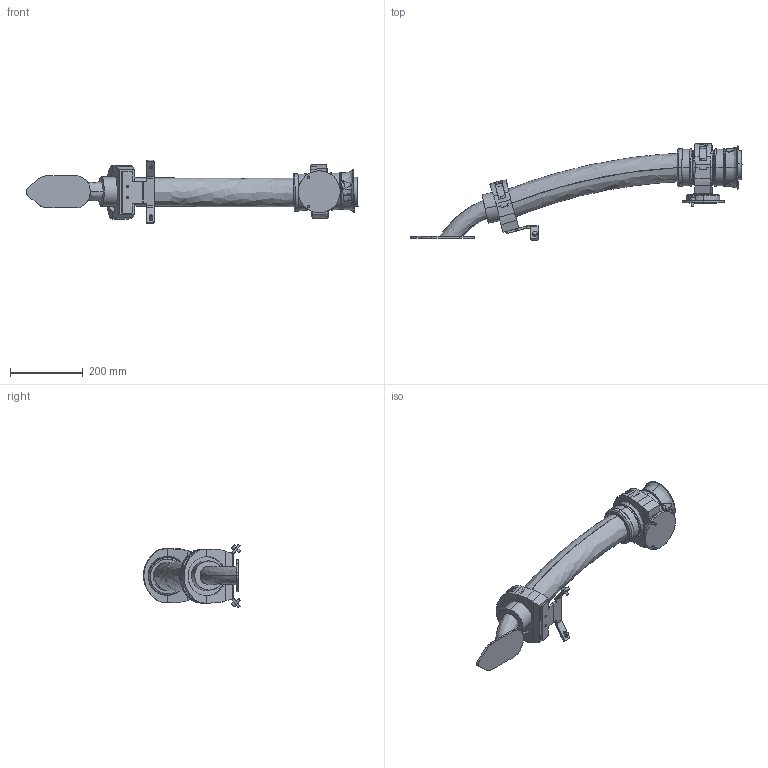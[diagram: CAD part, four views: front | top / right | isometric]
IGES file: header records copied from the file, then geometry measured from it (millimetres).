
Start section: SolidWorks IGES file using analytic representation for surfaces
Global section: file name: C:\DATA\SAP_DOC\LW\IRB 6720\IRB6720-LID-MH_215kg-265_OC_01_SW_J\export\IRB6720-LID-MH_215kg-265_OC_01_IGES_J\IRB6720-LID_215kg-265_OC_00_LINK04_CABLE.igs; native system: SolidWorks 2024; preprocessor: SolidWorks 2024; author: SEJOVAS3; date: 260526.094319; units: millimetre
Bounding box: 910.23 x 265.93 x 174.65 mm (x, y, z)
Surface area: 405410 mm2 (no closed solid volume)
Topology: 0 solids, 0 shells, 423 faces, 7753 edges, 7753 vertices
Faces by surface type: bspline 263, revolution 160
